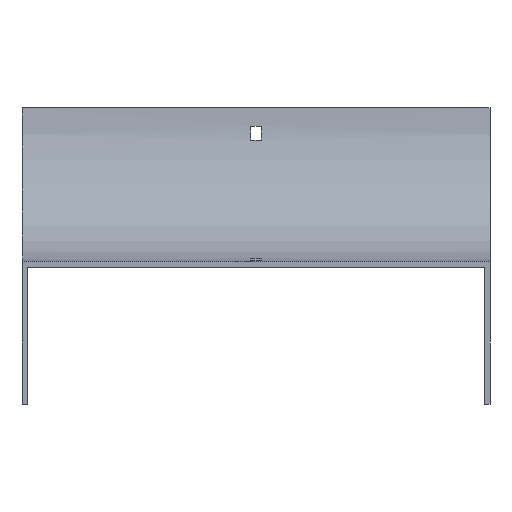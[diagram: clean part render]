
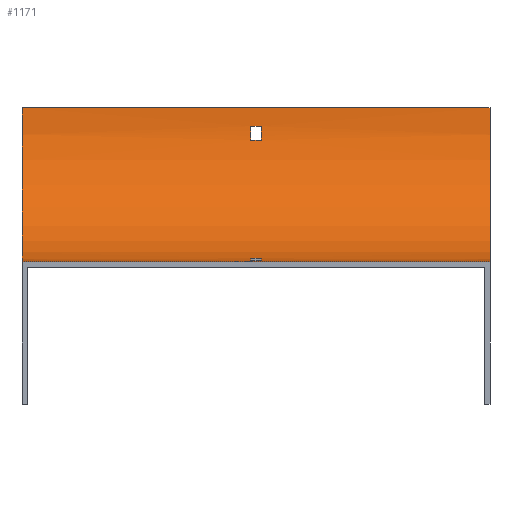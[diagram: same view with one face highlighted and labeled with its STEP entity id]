
A CAD part, front view. The second image highlights one B-rep face of the part: STEP entity #1171.
In plain terms, the highlighted cylindrical face has radius 100 mm (diameter 200 mm), a partial arc.
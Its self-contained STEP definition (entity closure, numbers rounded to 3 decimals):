
#19 = CARTESIAN_POINT ( 'NONE',  ( 152., -100., -100. ) ) ;
#33 = VECTOR ( 'NONE', #925, 1000. ) ;
#48 = EDGE_CURVE ( 'NONE', #310, #522, #837, .T. ) ;
#71 = DIRECTION ( 'NONE',  ( 0., 1., 0. ) ) ;
#79 = DIRECTION ( 'NONE',  ( 0., 0., -1. ) ) ;
#93 = VERTEX_POINT ( 'NONE', #600 ) ;
#126 = LINE ( 'NONE', #819, #33 ) ;
#168 = EDGE_CURVE ( 'NONE', #377, #310, #1513, .T. ) ;
#172 = CARTESIAN_POINT ( 'NONE',  ( 152., 0., 0. ) ) ;
#192 = CARTESIAN_POINT ( 'NONE',  ( 152., -100., 0. ) ) ;
#204 = DIRECTION ( 'NONE',  ( -1., 0., 0. ) ) ;
#218 = FACE_BOUND ( 'NONE', #336, .T. ) ;
#261 = AXIS2_PLACEMENT_3D ( 'NONE', #1228, #592, #1266 ) ;
#263 = EDGE_CURVE ( 'NONE', #93, #1657, #1190, .T. ) ;
#286 = VERTEX_POINT ( 'NONE', #1419 ) ;
#291 = DIRECTION ( 'NONE',  ( -1., 0., 0. ) ) ;
#294 = CARTESIAN_POINT ( 'NONE',  ( -3.25, -79., -97.77 ) ) ;
#309 = ORIENTED_EDGE ( 'NONE', *, *, #880, .F. ) ;
#310 = VERTEX_POINT ( 'NONE', #1436 ) ;
#336 = EDGE_LOOP ( 'NONE', ( #536, #393, #309, #1007 ) ) ;
#358 = AXIS2_PLACEMENT_3D ( 'NONE', #192, #204, #429 ) ;
#377 = VERTEX_POINT ( 'NONE', #617 ) ;
#382 = DIRECTION ( 'NONE',  ( 0., 0., 1. ) ) ;
#386 = CARTESIAN_POINT ( 'NONE',  ( 3.25, -88., -99.277 ) ) ;
#388 = ORIENTED_EDGE ( 'NONE', *, *, #1498, .T. ) ;
#393 = ORIENTED_EDGE ( 'NONE', *, *, #826, .F. ) ;
#398 = VECTOR ( 'NONE', #1366, 1000. ) ;
#399 = DIRECTION ( 'NONE',  ( -1., 0., 0. ) ) ;
#408 = VECTOR ( 'NONE', #521, 1000. ) ;
#429 = DIRECTION ( 'NONE',  ( 0., 0., 1. ) ) ;
#433 = CARTESIAN_POINT ( 'NONE',  ( -3.25, -100., 0. ) ) ;
#441 = CARTESIAN_POINT ( 'NONE',  ( -3.25, -0.723, -12. ) ) ;
#471 = EDGE_CURVE ( 'NONE', #609, #93, #798, .T. ) ;
#500 = CIRCLE ( 'NONE', #909, 100. ) ;
#503 = DIRECTION ( 'NONE',  ( 0., 0., 1. ) ) ;
#511 = VERTEX_POINT ( 'NONE', #441 ) ;
#514 = VECTOR ( 'NONE', #399, 1000. ) ;
#517 = CARTESIAN_POINT ( 'NONE',  ( 152., -100., -100. ) ) ;
#521 = DIRECTION ( 'NONE',  ( 1., 0., 0. ) ) ;
#522 = VERTEX_POINT ( 'NONE', #1400 ) ;
#527 = AXIS2_PLACEMENT_3D ( 'NONE', #1681, #1049, #382 ) ;
#536 = ORIENTED_EDGE ( 'NONE', *, *, #1061, .F. ) ;
#537 = CARTESIAN_POINT ( 'NONE',  ( 152., 0., 0. ) ) ;
#538 = ORIENTED_EDGE ( 'NONE', *, *, #48, .T. ) ;
#581 = EDGE_CURVE ( 'NONE', #609, #1205, #1234, .T. ) ;
#592 = DIRECTION ( 'NONE',  ( 1., 0., 0. ) ) ;
#600 = CARTESIAN_POINT ( 'NONE',  ( -152., 0., 0. ) ) ;
#609 = VERTEX_POINT ( 'NONE', #172 ) ;
#610 = AXIS2_PLACEMENT_3D ( 'NONE', #745, #734, #79 ) ;
#617 = CARTESIAN_POINT ( 'NONE',  ( 3.25, -0.723, -12. ) ) ;
#723 = VECTOR ( 'NONE', #1692, 1000. ) ;
#728 = DIRECTION ( 'NONE',  ( -1., 0., 0. ) ) ;
#734 = DIRECTION ( 'NONE',  ( -1., 0., 0. ) ) ;
#745 = CARTESIAN_POINT ( 'NONE',  ( 3.25, -100., 0. ) ) ;
#756 = FACE_BOUND ( 'NONE', #1139, .T. ) ;
#789 = LINE ( 'NONE', #517, #514 ) ;
#798 = LINE ( 'NONE', #537, #723 ) ;
#799 = ORIENTED_EDGE ( 'NONE', *, *, #168, .T. ) ;
#819 = CARTESIAN_POINT ( 'NONE',  ( 152., -79., -97.77 ) ) ;
#826 = EDGE_CURVE ( 'NONE', #1439, #1341, #126, .T. ) ;
#837 = LINE ( 'NONE', #1074, #910 ) ;
#848 = VERTEX_POINT ( 'NONE', #386 ) ;
#860 = EDGE_CURVE ( 'NONE', #286, #848, #1320, .T. ) ;
#880 = EDGE_CURVE ( 'NONE', #848, #1439, #958, .T. ) ;
#901 = AXIS2_PLACEMENT_3D ( 'NONE', #1672, #1148, #503 ) ;
#905 = ORIENTED_EDGE ( 'NONE', *, *, #1241, .F. ) ;
#909 = AXIS2_PLACEMENT_3D ( 'NONE', #433, #728, #71 ) ;
#910 = VECTOR ( 'NONE', #291, 1000. ) ;
#915 = ORIENTED_EDGE ( 'NONE', *, *, #581, .F. ) ;
#925 = DIRECTION ( 'NONE',  ( -1., 0., 0. ) ) ;
#958 = CIRCLE ( 'NONE', #1643, 100. ) ;
#1007 = ORIENTED_EDGE ( 'NONE', *, *, #860, .F. ) ;
#1008 = CIRCLE ( 'NONE', #261, 100. ) ;
#1010 = CARTESIAN_POINT ( 'NONE',  ( 3.25, -79., -97.77 ) ) ;
#1011 = FACE_OUTER_BOUND ( 'NONE', #1271, .T. ) ;
#1049 = DIRECTION ( 'NONE',  ( -1., 0., 0. ) ) ;
#1060 = CARTESIAN_POINT ( 'NONE',  ( 3.25, -100., 0. ) ) ;
#1061 = EDGE_CURVE ( 'NONE', #1341, #286, #500, .T. ) ;
#1065 = DIRECTION ( 'NONE',  ( 0., -1., 0. ) ) ;
#1074 = CARTESIAN_POINT ( 'NONE',  ( 152., -2.23, -21. ) ) ;
#1079 = ORIENTED_EDGE ( 'NONE', *, *, #263, .T. ) ;
#1085 = ORIENTED_EDGE ( 'NONE', *, *, #1553, .T. ) ;
#1122 = CARTESIAN_POINT ( 'NONE',  ( -152., -100., -100. ) ) ;
#1139 = EDGE_LOOP ( 'NONE', ( #538, #388, #1085, #799 ) ) ;
#1148 = DIRECTION ( 'NONE',  ( -1., 0., 0. ) ) ;
#1158 = CYLINDRICAL_SURFACE ( 'NONE', #901, 100. ) ;
#1171 = ADVANCED_FACE ( 'NONE', ( #1011, #756, #218 ), #1158, .F. ) ;
#1190 = CIRCLE ( 'NONE', #527, 100. ) ;
#1200 = DIRECTION ( 'NONE',  ( 1., 0., 0. ) ) ;
#1205 = VERTEX_POINT ( 'NONE', #19 ) ;
#1228 = CARTESIAN_POINT ( 'NONE',  ( -3.25, -100., 0. ) ) ;
#1234 = CIRCLE ( 'NONE', #358, 100. ) ;
#1241 = EDGE_CURVE ( 'NONE', #1205, #1657, #789, .T. ) ;
#1266 = DIRECTION ( 'NONE',  ( 0., 0., 1. ) ) ;
#1271 = EDGE_LOOP ( 'NONE', ( #1079, #905, #915, #1346 ) ) ;
#1320 = LINE ( 'NONE', #1599, #408 ) ;
#1341 = VERTEX_POINT ( 'NONE', #294 ) ;
#1346 = ORIENTED_EDGE ( 'NONE', *, *, #471, .T. ) ;
#1366 = DIRECTION ( 'NONE',  ( 1., 0., 0. ) ) ;
#1400 = CARTESIAN_POINT ( 'NONE',  ( -3.25, -2.23, -21. ) ) ;
#1419 = CARTESIAN_POINT ( 'NONE',  ( -3.25, -88., -99.277 ) ) ;
#1436 = CARTESIAN_POINT ( 'NONE',  ( 3.25, -2.23, -21. ) ) ;
#1439 = VERTEX_POINT ( 'NONE', #1010 ) ;
#1498 = EDGE_CURVE ( 'NONE', #522, #511, #1008, .T. ) ;
#1513 = CIRCLE ( 'NONE', #610, 100. ) ;
#1553 = EDGE_CURVE ( 'NONE', #511, #377, #1636, .T. ) ;
#1599 = CARTESIAN_POINT ( 'NONE',  ( 152., -88., -99.277 ) ) ;
#1627 = CARTESIAN_POINT ( 'NONE',  ( 152., -0.723, -12. ) ) ;
#1636 = LINE ( 'NONE', #1627, #398 ) ;
#1643 = AXIS2_PLACEMENT_3D ( 'NONE', #1060, #1200, #1065 ) ;
#1657 = VERTEX_POINT ( 'NONE', #1122 ) ;
#1672 = CARTESIAN_POINT ( 'NONE',  ( 152., -100., 0. ) ) ;
#1681 = CARTESIAN_POINT ( 'NONE',  ( -152., -100., 0. ) ) ;
#1692 = DIRECTION ( 'NONE',  ( -1., 0., 0. ) ) ;
